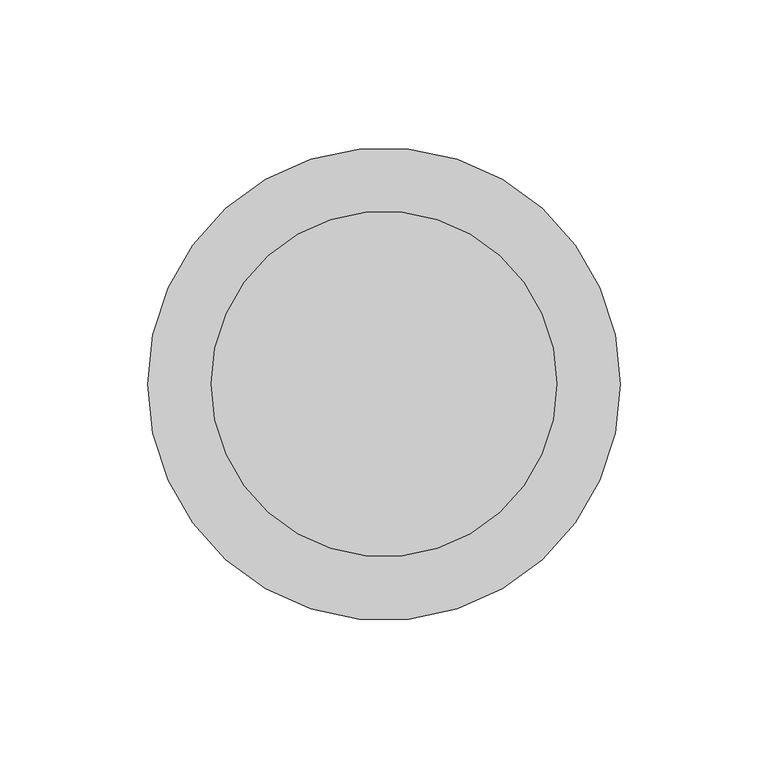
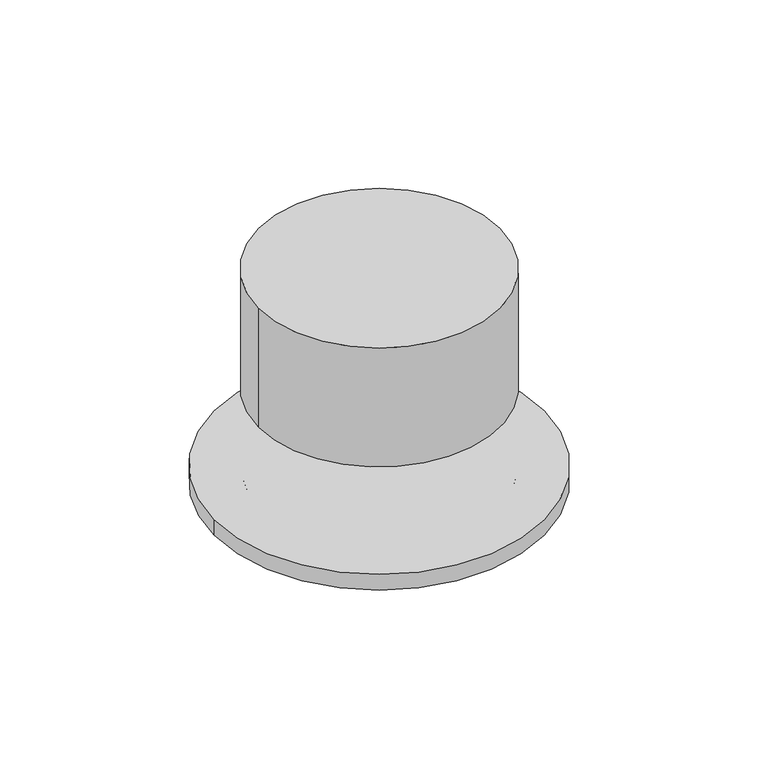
"""IFC4 building model written with IfcOpenShell, lengths in millimetres: air terminal geometry, NLRS_57_AIR_WPB_supply air valve_M&G : Conus."""

from ifc_helpers import new_model, si_unit, point, frame, origin, origin_with_axes, origin_2d, place, context, project, spatial, circle_curve, trimmed, segment, composite_curve, outline, extrude, source, transform, mapped, element, save


def air_terminal_ad92f96e(model_context):
    return source(origin(), model_context, "Body", "SweptSolid", [
        extrude(outline(composite_curve([segment(trimmed(circle_curve(origin_2d(), 58.5), [point((-58.5, 0.0))], [point((58.5, 0.0))], False, "CARTESIAN"), True, "CONTINUOUS"), segment(trimmed(circle_curve(origin_2d(), 58.5), [point((58.5, 0.0))], [point((-58.5, 0.0))], False, "CARTESIAN"), True, "CONTINUOUS")], self_intersect=False)), origin_with_axes(), (0.0, 0.0, 1.0), 61.0),
        extrude(outline(composite_curve([segment(trimmed(circle_curve(origin_2d(), 80.0), [point((-80.0, 0.0))], [point((80.0, 0.0))], False, "CARTESIAN"), True, "CONTINUOUS"), segment(trimmed(circle_curve(origin_2d(), 80.0), [point((80.0, 0.0))], [point((-80.0, 0.0))], False, "CARTESIAN"), True, "CONTINUOUS")], self_intersect=False)), frame((0.0, 0.0, -48.0), z_axis=(0.0, 0.0, 1.0), x_axis=(1.0, 0.0, 0.0)), (0.0, 0.0, 1.0), 8.0),
        extrude(outline(composite_curve([segment(trimmed(circle_curve(origin_2d(), 58.5), [point((58.5, 0.0))], [point((-58.5, 0.0))], False, "CARTESIAN"), True, "CONTINUOUS"), segment(trimmed(circle_curve(origin_2d(), 58.5), [point((-58.5, 0.0))], [point((58.5, 0.0))], False, "CARTESIAN"), True, "CONTINUOUS")], self_intersect=False)), frame((0.0, 0.0, -58.0), z_axis=(0.0, 0.0, 1.0), x_axis=(1.0, 0.0, 0.0)), (0.0, 0.0, 1.0), 18.0),
    ])


if __name__ == "__main__":
    model = new_model("IFC4")
    model_context = context("Model", 3, world=origin())
    ifc_project = project(units=[si_unit("LENGTHUNIT", "METRE", prefix="MILLI")], contexts=[model_context])
    site = spatial("IfcSite", under=ifc_project)
    building = spatial("IfcBuilding", under=site)
    placement = place(None, origin())
    air_terminal_shape = air_terminal_ad92f96e(model_context)
    element("IfcAirTerminal", 1, ObjectType="NLRS_57_AIR_WPB_supply air valve_M&G : Conus", at=placement, inside=building, context=model_context, shape_type="MappedRepresentation", body=[
        mapped(air_terminal_shape, transform((0.0, 0.0, 0.0), x_axis=(1.0, 0.0, 0.0), y_axis=(0.0, 1.0, 0.0), z_axis=(0.0, 0.0, 1.0))),
    ])
    save(model, "model.ifc")
